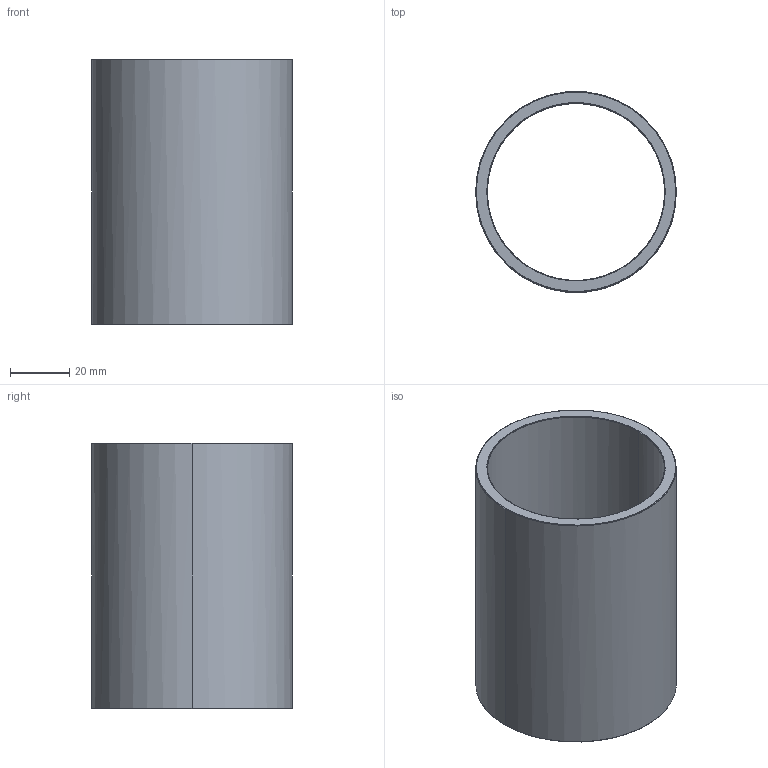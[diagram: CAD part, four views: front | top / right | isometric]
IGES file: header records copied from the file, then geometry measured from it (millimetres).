
Start section: Write IGES format                                    datakit 2008 (c)
Global section: file name: Unknown; native system: DATAKIT Converter; preprocessor: Unknown; author: Unknown; organization: Unknown; date: 950613.180003; units: millimetre
Bounding box: 68 x 67.86 x 90 mm (x, y, z)
Surface area: 37705.4 mm2 (no closed solid volume)
Topology: 0 solids, 0 shells, 14 faces, 56 edges, 56 vertices
Faces by surface type: revolution 12, bspline 2
